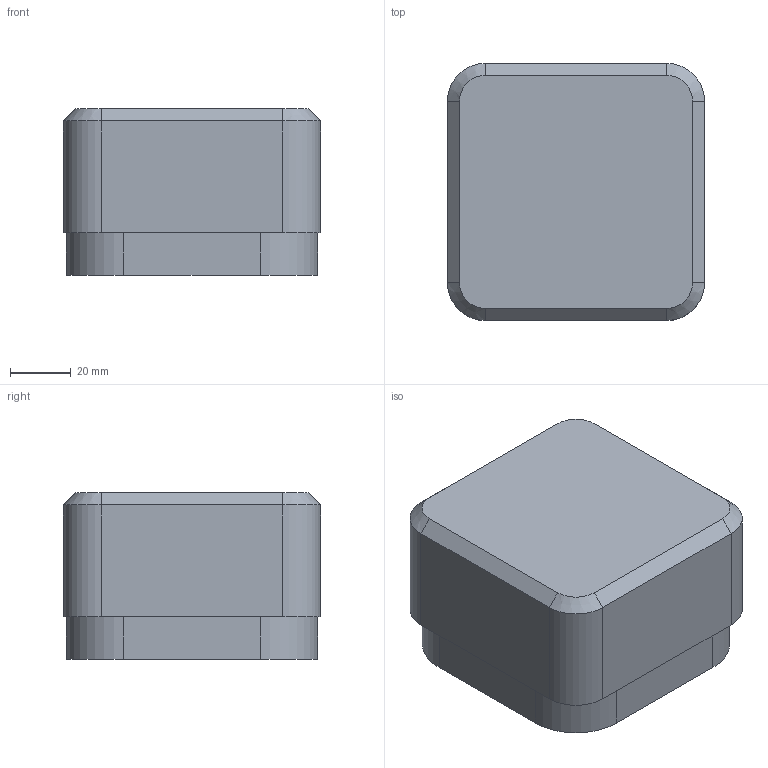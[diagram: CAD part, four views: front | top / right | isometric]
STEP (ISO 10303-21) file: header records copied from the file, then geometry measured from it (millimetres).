
FILE_DESCRIPTION(/* description */ (''),/* implementation_level */ '2;1');
FILE_NAME(/* name */ 'LM-5567-3990-A.stp',/* time_stamp */ '2015-10-05T11:22:07+01:00',/* author */ (''),/* organization */ (''),/* preprocessor_version */ 'ST-DEVELOPER v11',/* originating_system */ 'SIEMENS PLM Software NX 7.5',/* authorisation */ '');
FILE_SCHEMA (('AUTOMOTIVE_DESIGN { 1 0 10303 214 1 1 1 1 }'));
Length unit declared in the file: millimetre
Products named in the file (1): rt13FF11qj25
Bounding box: 85 x 85 x 55 mm (x, y, z)
Volume: 380352.1 mm3; surface area: 30666 mm2
Topology: 1 solids, 1 shells, 27 faces, 64 edges, 40 vertices
Faces by surface type: plane 15, cylinder 8, cone 4
Entity records: 798 total; most frequent: DIRECTION 140, CARTESIAN_POINT 132, ORIENTED_EDGE 128, EDGE_CURVE 64, AXIS2_PLACEMENT_3D 48, LINE 44, VECTOR 44, VERTEX_POINT 40
